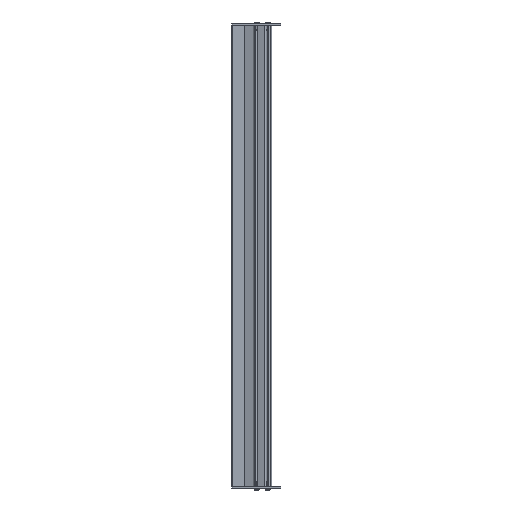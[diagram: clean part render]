
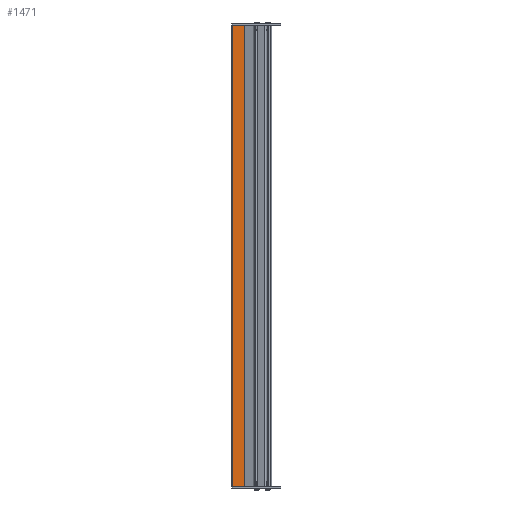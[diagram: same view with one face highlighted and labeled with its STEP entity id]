
A CAD part, left-side view. The second image highlights one B-rep face of the part: STEP entity #1471.
In plain terms, the highlighted planar face has unit normal (-1, 0, 0) as drawn and (1, 0, 0) by its records, which use the part's own axes.
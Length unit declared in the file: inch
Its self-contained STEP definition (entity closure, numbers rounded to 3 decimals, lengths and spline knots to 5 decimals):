
#522=DIRECTION('',(0.,0.,1.));
#523=VECTOR('',#522,34.236);
#524=CARTESIAN_POINT('',(0.048,0.01693,-17.118));
#525=LINE('',#524,#523);
#552=DIRECTION('',(0.,-1.,0.));
#553=VECTOR('',#552,0.88707);
#554=CARTESIAN_POINT('',(0.048,0.904,-17.118));
#555=LINE('',#554,#553);
#556=DIRECTION('',(0.,-1.,0.));
#557=VECTOR('',#556,0.88707);
#558=CARTESIAN_POINT('',(0.048,0.904,17.118));
#559=LINE('',#558,#557);
#560=DIRECTION('',(0.,0.,-1.));
#561=VECTOR('',#560,34.236);
#562=CARTESIAN_POINT('',(0.048,0.904,17.118));
#563=LINE('',#562,#561);
#900=CARTESIAN_POINT('',(0.048,0.904,-17.118));
#901=CARTESIAN_POINT('',(0.048,0.01693,-17.118));
#902=VERTEX_POINT('',#900);
#903=VERTEX_POINT('',#901);
#1048=CARTESIAN_POINT('',(0.048,0.01693,17.118));
#1049=VERTEX_POINT('',#1048);
#1092=CARTESIAN_POINT('',(0.048,0.904,17.118));
#1093=VERTEX_POINT('',#1092);
#1459=CARTESIAN_POINT('',(0.048,0.,17.118));
#1460=DIRECTION('',(-1.,0.,0.));
#1461=DIRECTION('',(0.,0.,1.));
#1462=AXIS2_PLACEMENT_3D('',#1459,#1460,#1461);
#1463=PLANE('',#1462);
#1464=ORIENTED_EDGE('',*,*,#1452,.T.);
#1465=ORIENTED_EDGE('',*,*,#1395,.T.);
#1466=ORIENTED_EDGE('',*,*,#1424,.F.);
#1468=ORIENTED_EDGE('',*,*,#1467,.T.);
#1469=EDGE_LOOP('',(#1464,#1465,#1466,#1468));
#1470=FACE_OUTER_BOUND('',#1469,.F.);
#1395=EDGE_CURVE('',#903,#1049,#525,.T.);
#1424=EDGE_CURVE('',#1093,#1049,#559,.T.);
#1452=EDGE_CURVE('',#902,#903,#555,.T.);
#1467=EDGE_CURVE('',#1093,#902,#563,.T.);
#1471=ADVANCED_FACE('',(#1470),#1463,.F.);
